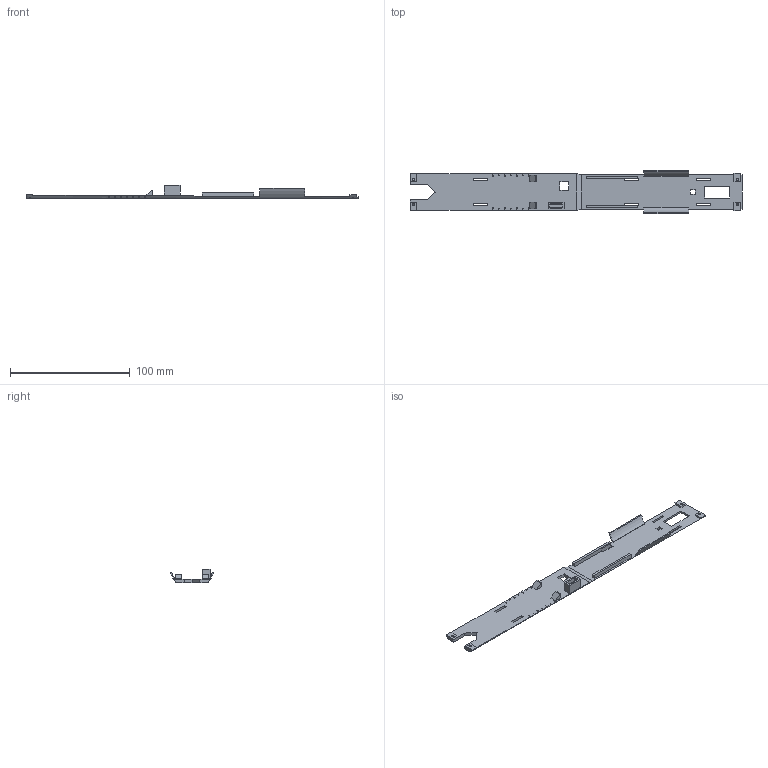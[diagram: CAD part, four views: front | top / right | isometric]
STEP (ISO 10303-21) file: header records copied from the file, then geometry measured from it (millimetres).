
FILE_DESCRIPTION(('SkyG Speed 90B - revision C6B-4 - 2026-10-08','TR-equipment-tray'),'2;1');
FILE_NAME('TR-equipment-tray_C6B-4','2026-10-08T07:02:32',('Author'),( 'Open CASCADE'),'Open CASCADE STEP processor 7.9','Open CASCADE 7.9' ,'Unknown');
FILE_SCHEMA(('AUTOMOTIVE_DESIGN { 1 0 10303 214 1 1 1 1 }'));
Length unit declared in the file: millimetre
Products named in the file (1): TR-equipment-tray C6B-4
Bounding box: 277 x 36.14 x 11.1 mm (x, y, z)
Volume: 17703.8 mm3; surface area: 19092.5 mm2
Topology: 1 solids, 1 shells, 163 faces, 483 edges, 322 vertices
Faces by surface type: plane 155, cylinder 8
Full cylindrical faces by diameter (mm): 1.6 x4
Entity records: 11752 total; most frequent: CARTESIAN_POINT 3053, DIRECTION 1287, ORIENTED_EDGE 966, PCURVE 966, DEFINITIONAL_REPRESENTATION 966, LINE 775, VECTOR 775, B_SPLINE_CURVE_WITH_KNOTS 550
